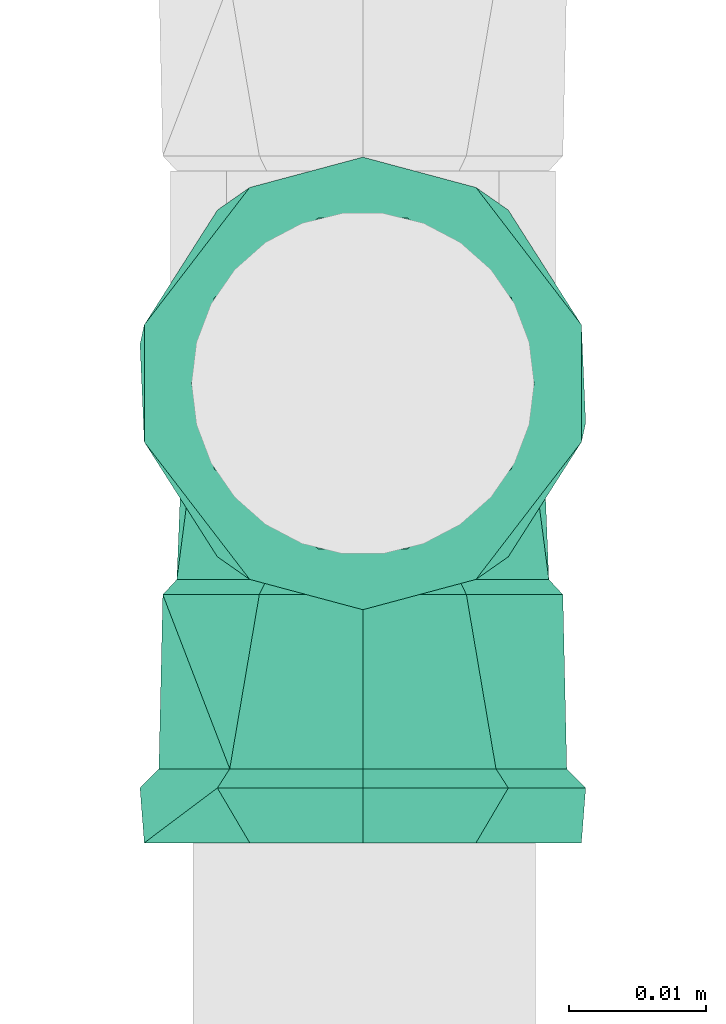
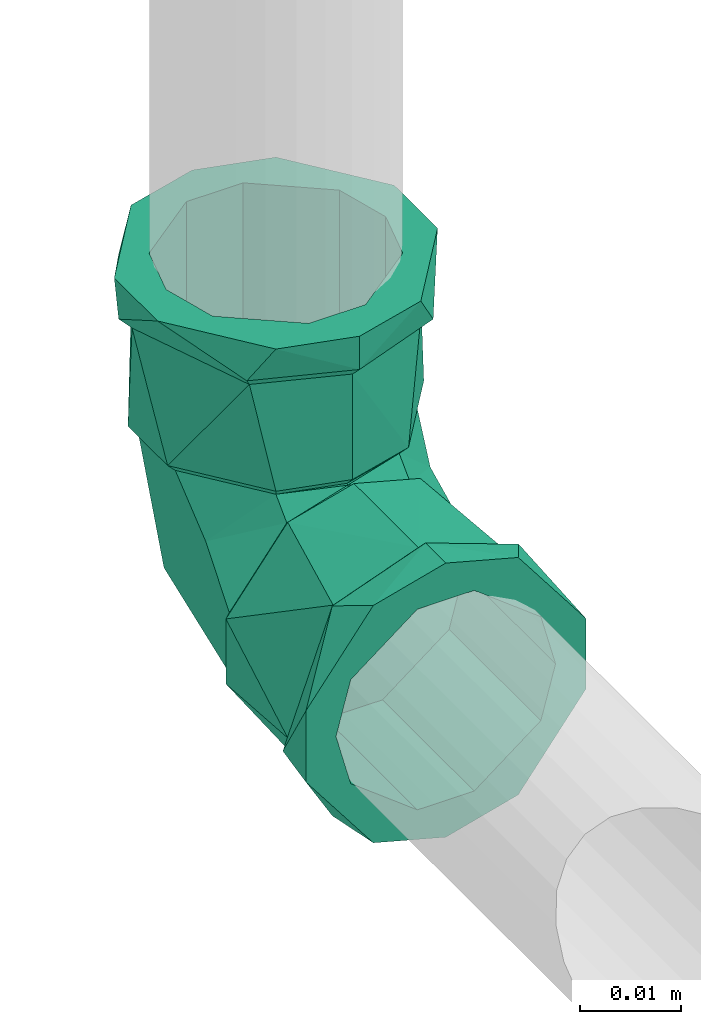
# One storey, part 320 of 589: 1 flow fitting.
"""IFC2X3 building model written with IfcOpenShell, lengths in millimetres."""

from ifc_helpers import new_model, entity, si_unit, converted_unit, derived_unit, direction, frame, origin, place, context, subcontext, project, spatial, faceted_brep, source, transform, mapped, material, type_object, type_shapes, element, save


model = new_model("IFC2X3")

# Units and contexts
model_context = context("Model", 3, precision=0.01, world=origin(), true_north=direction((6.123031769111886e-17, 1.0)))
body_context = subcontext(model_context, "Body", "Model", "MODEL_VIEW")
ifc_project = project(units=[si_unit("LENGTHUNIT", "METRE", prefix="MILLI"), si_unit("AREAUNIT", "SQUARE_METRE"), si_unit("VOLUMEUNIT", "CUBIC_METRE"), converted_unit("PLANEANGLEUNIT", "DEGREE", entity("IfcRatioMeasure", 0.017453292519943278), si_unit("PLANEANGLEUNIT", "RADIAN"), dimensions=[0, 0, 0, 0, 0, 0, 0]), si_unit("MASSUNIT", "GRAM", prefix="KILO"), derived_unit("MASSDENSITYUNIT", [(si_unit("MASSUNIT", "GRAM", prefix="KILO"), 1), (si_unit("LENGTHUNIT", "METRE"), -3)]), derived_unit("IONCONCENTRATIONUNIT", [(si_unit("MASSUNIT", "GRAM", prefix="KILO"), 1), (si_unit("LENGTHUNIT", "METRE"), -3)]), derived_unit("MOMENTOFINERTIAUNIT", [(si_unit("LENGTHUNIT", "METRE"), 4)]), si_unit("TIMEUNIT", "SECOND"), si_unit("FREQUENCYUNIT", "HERTZ"), si_unit("THERMODYNAMICTEMPERATUREUNIT", "DEGREE_CELSIUS"), derived_unit("THERMALTRANSMITTANCEUNIT", [(si_unit("MASSUNIT", "GRAM", prefix="KILO"), 1), (si_unit("THERMODYNAMICTEMPERATUREUNIT", "KELVIN"), -1), (si_unit("TIMEUNIT", "SECOND"), -3)]), derived_unit("THERMALCONDUCTANCEUNIT", [(si_unit("MASSUNIT", "GRAM", prefix="KILO"), 1), (si_unit("THERMODYNAMICTEMPERATUREUNIT", "KELVIN"), -1), (si_unit("TIMEUNIT", "SECOND"), -3), (si_unit("LENGTHUNIT", "METRE"), 1)]), derived_unit("VOLUMETRICFLOWRATEUNIT", [(si_unit("LENGTHUNIT", "METRE"), 3), (si_unit("TIMEUNIT", "SECOND"), -1)]), derived_unit("MASSFLOWRATEUNIT", [(si_unit("MASSUNIT", "GRAM", prefix="KILO"), 1), (si_unit("TIMEUNIT", "SECOND"), -1)]), derived_unit("ROTATIONALFREQUENCYUNIT", [(si_unit("TIMEUNIT", "SECOND"), -1)]), si_unit("ELECTRICCURRENTUNIT", "AMPERE"), si_unit("ELECTRICVOLTAGEUNIT", "VOLT"), si_unit("POWERUNIT", "WATT"), si_unit("FORCEUNIT", "NEWTON", prefix="KILO"), si_unit("ILLUMINANCEUNIT", "LUX"), si_unit("LUMINOUSFLUXUNIT", "LUMEN"), si_unit("LUMINOUSINTENSITYUNIT", "CANDELA"), derived_unit("USERDEFINED", [(si_unit("MASSUNIT", "GRAM", prefix="KILO"), -1), (si_unit("LENGTHUNIT", "METRE"), -2), (si_unit("TIMEUNIT", "SECOND"), 3), (si_unit("LUMINOUSFLUXUNIT", "LUMEN"), 1)]), derived_unit("USERDEFINED", [(si_unit("MASSUNIT", "GRAM", prefix="KILO"), 1), (si_unit("TIMEUNIT", "SECOND"), -3), (si_unit("LENGTHUNIT", "METRE"), 3), (si_unit("ELECTRICCURRENTUNIT", "AMPERE"), -2)]), derived_unit("SOUNDPOWERUNIT", [(si_unit("MASSUNIT", "GRAM", prefix="KILO"), 1), (si_unit("TIMEUNIT", "SECOND"), -3), (si_unit("LENGTHUNIT", "METRE"), 2)]), derived_unit("SOUNDPRESSUREUNIT", [(si_unit("MASSUNIT", "GRAM", prefix="KILO"), 1), (si_unit("LENGTHUNIT", "METRE"), -1), (si_unit("TIMEUNIT", "SECOND"), -2)]), derived_unit("LINEARVELOCITYUNIT", [(si_unit("LENGTHUNIT", "METRE"), 1), (si_unit("TIMEUNIT", "SECOND"), -1)]), si_unit("PRESSUREUNIT", "PASCAL"), derived_unit("USERDEFINED", [(si_unit("MASSUNIT", "GRAM", prefix="KILO"), 1), (si_unit("LENGTHUNIT", "METRE"), -2), (si_unit("TIMEUNIT", "SECOND"), -2)]), derived_unit("LINEARFORCEUNIT", [(si_unit("MASSUNIT", "GRAM", prefix="KILO"), 1), (si_unit("TIMEUNIT", "SECOND"), -2)]), derived_unit("PLANARFORCEUNIT", [(si_unit("MASSUNIT", "GRAM", prefix="KILO"), 1), (si_unit("LENGTHUNIT", "METRE"), -1), (si_unit("TIMEUNIT", "SECOND"), -2)]), derived_unit("SPECIFICHEATCAPACITYUNIT", [(si_unit("THERMODYNAMICTEMPERATUREUNIT", "KELVIN"), -1), (si_unit("LENGTHUNIT", "METRE"), 2), (si_unit("TIMEUNIT", "SECOND"), -2)]), derived_unit("HEATINGVALUEUNIT", [(si_unit("LENGTHUNIT", "METRE"), 2), (si_unit("TIMEUNIT", "SECOND"), -2)]), derived_unit("VAPORPERMEABILITYUNIT", [(si_unit("LENGTHUNIT", "METRE"), -1), (si_unit("TIMEUNIT", "SECOND"), 1)]), derived_unit("DYNAMICVISCOSITYUNIT", [(si_unit("MASSUNIT", "GRAM", prefix="KILO"), 1), (si_unit("TIMEUNIT", "SECOND"), -1), (si_unit("LENGTHUNIT", "METRE"), -1)]), derived_unit("THERMALEXPANSIONCOEFFICIENTUNIT", [(si_unit("THERMODYNAMICTEMPERATUREUNIT", "KELVIN"), -1)]), derived_unit("MODULUSOFELASTICITYUNIT", [(si_unit("MASSUNIT", "GRAM", prefix="KILO"), 1), (si_unit("LENGTHUNIT", "METRE"), -1), (si_unit("TIMEUNIT", "SECOND"), -2)]), derived_unit("ISOTHERMALMOISTURECAPACITYUNIT", [(si_unit("LENGTHUNIT", "METRE"), 3), (si_unit("MASSUNIT", "GRAM", prefix="KILO"), -1)]), derived_unit("MOISTUREDIFFUSIVITYUNIT", [(si_unit("TIMEUNIT", "SECOND"), -1), (si_unit("LENGTHUNIT", "METRE"), 2)])], contexts=[model_context])

# Site, building, storey
site_placement = place(None, origin())
site = spatial("IfcSite", under=ifc_project, at=site_placement, Name="Default", CompositionType="ELEMENT")
building_placement = place(site_placement, origin())
building = spatial("IfcBuilding", under=site, at=building_placement, CompositionType="ELEMENT")
storey_placement = place(building_placement, frame((0.0, 0.0, 100.0)))
storey = spatial("IfcBuildingStorey", under=building, at=storey_placement, Name="TÉRREO", CompositionType="ELEMENT", Elevation=100.0)

# Flow fitting
ifc_material = material(Name="PVC Marrom")
pipe_fitting_type = type_object("IfcPipeFittingType", Name="PVC Marrom Soldável_Joelho 45°_90°_Rodrigo MEP:Joelho", PredefinedType="NOTDEFINED", material=ifc_material)
shared_shape = source(origin(), body_context, "Body", "Brep", [
    faceted_brep([(-3.908167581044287, -15.40000000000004, 14.585479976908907), (-13.076983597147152, -15.40000000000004, 7.549999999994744), (-15.10000000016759, -15.40000000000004, 0.0), (-13.076983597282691, -15.40000000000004, -7.550000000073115), (-3.9081675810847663, -15.40000000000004, -14.585479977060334), (3.9081675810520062, -15.40000000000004, -14.585479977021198), (13.076983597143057, -15.40000000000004, -7.55000000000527), (15.099999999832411, -15.40000000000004, 0.0), (13.076983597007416, -15.40000000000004, 7.549999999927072), (3.908167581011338, -15.40000000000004, 14.585479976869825), (3.6338193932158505, -14.30000000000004, 13.561598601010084), (12.158996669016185, -14.30000000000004, 7.0199999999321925), (14.040000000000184, -14.30000000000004, 0.0), (12.158996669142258, -14.30000000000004, -7.020000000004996), (3.6338193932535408, -14.30000000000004, -13.561598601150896), (-3.6338193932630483, -14.30000000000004, -13.561598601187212), (-12.158996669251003, -14.30000000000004, -7.020000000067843), (-14.039999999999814, -14.30000000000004, 0.0), (-12.158996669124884, -14.30000000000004, 7.0199999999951), (-3.633819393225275, -14.30000000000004, 13.561598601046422)], [[[0, 1, 2, 3, 4, 5, 6, 7, 8, 9]], [[10, 11, 12, 13, 14, 15, 16, 17, 18, 19]], [[13, 12, 6]], [[14, 13, 6, 5]], [[12, 7, 6]], [[5, 4, 15, 14]], [[16, 15, 4, 3]], [[17, 16, 2]], [[16, 3, 2]], [[18, 17, 1]], [[19, 18, 1, 0]], [[17, 2, 1]], [[0, 9, 10, 19]], [[11, 10, 9, 8]], [[12, 11, 7]], [[11, 8, 7]]]),
    faceted_brep([(-15.399999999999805, -3.908167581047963, 14.585479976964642), (-15.399999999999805, 3.908167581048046, 14.585479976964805), (-15.399999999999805, 13.076983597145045, 7.550000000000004), (-15.399999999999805, 15.100000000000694, 0.0), (-15.399999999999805, 13.0769835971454, -7.550000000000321), (-15.399999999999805, 3.9081675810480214, -14.585479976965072), (-15.399999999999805, -3.9081675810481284, -14.58547997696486), (-15.399999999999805, -13.076983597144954, -7.54999999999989), (-15.399999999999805, -15.099999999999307, 0.0), (-15.399999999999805, -13.076983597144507, 7.549999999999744), (-14.299999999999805, 3.633819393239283, 13.56159860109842), (-14.299999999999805, -3.6338193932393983, 13.561598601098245), (-14.299999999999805, -12.158996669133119, 7.019999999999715), (-14.299999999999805, -14.040000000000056, 0.0), (-14.299999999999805, -12.158996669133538, -7.019999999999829), (-14.299999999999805, -3.6338193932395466, -13.56159860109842), (-14.299999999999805, 3.63381939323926, -13.561598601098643), (-14.299999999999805, 12.158996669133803, -7.020000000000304), (-14.299999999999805, 14.039999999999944, 0.0), (-14.299999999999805, 12.15899666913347, 7.020000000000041)], [[[0, 1, 2, 3, 4, 5, 6, 7, 8, 9]], [[10, 11, 12, 13, 14, 15, 16, 17, 18, 19]], [[14, 13, 8, 7]], [[15, 14, 7, 6]], [[6, 5, 16, 15]], [[17, 16, 5, 4]], [[18, 17, 4, 3]], [[19, 18, 3, 2]], [[10, 19, 2, 1]], [[1, 0, 11, 10]], [[12, 11, 0, 9]], [[13, 12, 9, 8]]]),
    faceted_brep([(-33.4999999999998, 0.0, -12.5), (-33.4999999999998, 6.250000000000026, -10.825317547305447), (-33.4999999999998, 4.2705142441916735, -15.937776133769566), (-33.4999999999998, -4.270514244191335, -15.937776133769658), (-33.4999999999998, -6.250000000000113, -10.82531754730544), (-33.4999999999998, 14.289419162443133, -8.25000000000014), (-33.4999999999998, 12.074072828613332, -3.23523806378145), (-33.4999999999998, 16.5, 0.0), (-33.4999999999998, 12.074072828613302, 3.2352380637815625), (-33.4999999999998, 14.289419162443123, 8.249999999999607), (-33.4999999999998, 6.249999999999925, 10.825317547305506), (-33.4999999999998, 4.27051424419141, 15.937776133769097), (-33.4999999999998, 0.0, 12.5), (-33.4999999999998, -4.270514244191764, 15.937776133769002), (-33.4999999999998, -6.249999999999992, 10.825317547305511), (-33.4999999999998, -14.28941916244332, 8.249999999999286), (-33.4999999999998, -12.074072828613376, 3.2352380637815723), (-33.4999999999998, -16.5, 0.0), (-33.4999999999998, -12.074072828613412, -3.235238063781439), (-33.4999999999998, -14.289419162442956, -8.250000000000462), (-29.499999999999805, -16.5, 0.0), (-29.500000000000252, -12.639142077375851, 10.606700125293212), (-29.50000000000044, -4.885841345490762, 13.427814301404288), (-29.5000000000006, 2.8674593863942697, 16.24892847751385), (-29.50000000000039, 12.64180232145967, 10.603529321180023), (-29.499999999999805, 16.499999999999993, 0.0), (-29.49999999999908, 12.641802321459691, -10.603529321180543), (-29.499999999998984, 4.889209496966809, -13.426588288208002), (-29.4999999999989, -2.8633833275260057, -16.249647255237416), (-29.499999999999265, -12.639142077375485, -10.606700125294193), (-28.10000000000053, 11.56916454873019, 9.703835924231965), (-28.099999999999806, 15.099999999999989, 0.0), (-28.10000000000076, 2.624159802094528, 14.870231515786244), (-28.100000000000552, -4.471285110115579, 12.288484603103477), (-28.100000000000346, -11.566730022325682, 9.706737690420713), (-28.09999999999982, -15.099999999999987, 0.0), (-28.099999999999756, -11.566730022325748, -9.706737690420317), (-28.099999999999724, -2.620429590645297, -14.87088930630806), (-28.099999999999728, 4.4743674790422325, -12.287362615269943), (-28.09999999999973, 11.569164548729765, -9.703835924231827), (-15.399999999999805, 3.908167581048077, -14.585479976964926), (-15.399999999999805, 6.250000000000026, -10.825317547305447), (-15.399999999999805, 0.0, -12.5), (-15.399999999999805, 13.076983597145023, -7.549999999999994), (-15.399999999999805, -3.9081675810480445, -14.585479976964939), (-15.399999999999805, 12.074072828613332, -3.23523806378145), (-15.399999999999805, 15.099999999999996, 0.0), (-15.399999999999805, 12.074072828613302, 3.2352380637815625), (-15.399999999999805, 13.076983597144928, 7.550000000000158), (-15.399999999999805, 6.249999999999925, 10.825317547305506), (-15.399999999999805, 3.9081675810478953, 14.585479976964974), (-15.399999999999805, 0.0, 12.5), (-15.399999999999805, -3.9081675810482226, 14.58547997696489), (-15.399999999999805, -6.249999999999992, 10.825317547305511), (-15.399999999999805, -13.076983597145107, 7.549999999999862), (-15.399999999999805, -12.074072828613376, 3.2352380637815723), (-15.399999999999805, -15.100000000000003, 0.0), (-15.399999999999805, -12.074072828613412, -3.235238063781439), (-15.399999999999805, -13.076983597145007, -7.550000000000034), (-15.399999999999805, -6.250000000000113, -10.82531754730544)], [[[0, 1, 2]], [[2, 3, 0]], [[4, 0, 3]], [[5, 2, 1]], [[1, 6, 5]], [[6, 7, 5]], [[8, 7, 6]], [[7, 8, 9]], [[10, 9, 8]], [[9, 10, 11]], [[12, 11, 10]], [[13, 11, 12]], [[12, 14, 13]], [[13, 14, 15]], [[16, 15, 14]], [[15, 16, 17]], [[16, 18, 17]], [[19, 18, 4]], [[17, 18, 19]], [[3, 19, 4]], [[20, 15, 17]], [[20, 21, 15]], [[13, 15, 21]], [[13, 21, 22, 23]], [[9, 11, 24]], [[7, 9, 25]], [[23, 24, 11]], [[25, 9, 24]], [[13, 23, 11]], [[25, 5, 7]], [[25, 26, 5]], [[2, 5, 26]], [[2, 26, 27, 28]], [[19, 3, 29]], [[17, 19, 20]], [[28, 29, 3]], [[20, 19, 29]], [[2, 28, 3]], [[24, 30, 31, 25]], [[30, 24, 23, 32]], [[33, 32, 23, 22, 21, 34]], [[20, 35, 34, 21]], [[29, 36, 35, 20]], [[36, 29, 28, 37]], [[38, 37, 28, 27, 26, 39]], [[25, 31, 39, 26]], [[40, 41, 42]], [[41, 40, 43]], [[42, 44, 40]], [[43, 45, 41]], [[43, 46, 45]], [[45, 46, 47]], [[48, 47, 46]], [[47, 48, 49]], [[50, 49, 48]], [[49, 50, 51]], [[51, 50, 52]], [[52, 53, 51]], [[54, 53, 52]], [[53, 54, 55]], [[56, 55, 54]], [[56, 57, 55]], [[58, 57, 56]], [[59, 57, 58]], [[59, 58, 44]], [[44, 42, 59]], [[54, 34, 35]], [[56, 54, 35]], [[52, 34, 54]], [[52, 32, 33, 34]], [[30, 32, 50]], [[31, 30, 48]], [[50, 48, 30]], [[46, 31, 48]], [[52, 50, 32]], [[43, 39, 31]], [[46, 43, 31]], [[40, 39, 43]], [[40, 37, 38, 39]], [[36, 37, 44]], [[35, 36, 58]], [[44, 58, 36]], [[56, 35, 58]], [[40, 44, 37]], [[49, 51, 12, 10]], [[47, 49, 10, 8]], [[8, 6, 45, 47]], [[41, 45, 6, 1]], [[42, 41, 1, 0]], [[59, 42, 0, 4]], [[57, 59, 4, 18]], [[18, 16, 55, 57]], [[53, 55, 16, 14]], [[51, 53, 14, 12]]]),
    faceted_brep([(-14.299999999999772, 3.6338193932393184, -13.561598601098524), (-14.299999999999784, -3.63381939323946, -13.561598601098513), (-14.299999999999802, -12.158996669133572, -7.019999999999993), (-14.299999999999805, -14.04000000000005, 0.0), (-14.299999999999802, -12.158996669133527, 7.0200000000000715), (-14.299999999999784, -3.633819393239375, 13.561598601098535), (-14.299999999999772, 3.6338193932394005, 13.561598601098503), (-14.299999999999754, 12.158996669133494, 7.019999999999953), (-14.29999999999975, 14.039999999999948, 0.0), (-14.299999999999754, 12.158996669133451, -7.020000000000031), (3.633819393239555, -14.29999999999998, -13.561598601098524), (12.158996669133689, -14.299999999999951, -7.020000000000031), (14.040000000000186, -14.299999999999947, 0.0), (12.158996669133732, -14.299999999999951, 7.019999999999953), (3.6338193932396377, -14.29999999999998, 13.561598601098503), (-3.6338193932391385, -14.300000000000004, 13.561598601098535), (-12.158996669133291, -14.300000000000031, 7.0200000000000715), (-14.039999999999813, -14.300000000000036, 0.0), (-12.158996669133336, -14.300000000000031, -7.019999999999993), (-3.633819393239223, -14.300000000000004, -13.561598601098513), (-0.12999999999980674, 10.243159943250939, 0.0), (-8.296884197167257, -8.296884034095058, 12.78130953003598), (-0.45476175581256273, -0.4547603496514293, 13.009299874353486), (-4.9057767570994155, 9.090331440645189, 8.841582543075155), (3.6031967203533, 3.777073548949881, 0.0), (9.102895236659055, -4.991225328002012, 8.866254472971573), (-14.116152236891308, -14.116152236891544, 0.0), (7.336393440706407, -2.689012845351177, 0.0), (-4.905776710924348, 9.090331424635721, -8.841582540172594), (-0.45476143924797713, -0.45476027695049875, -13.009299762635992), (9.102895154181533, -4.991225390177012, -8.866254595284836), (-8.296884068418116, -8.296883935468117, -12.78130960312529)], [[[0, 1, 2, 3, 4, 5, 6, 7, 8, 9]], [[10, 11, 12, 13, 14, 15, 16, 17, 18, 19]], [[7, 20, 8]], [[5, 21, 22]], [[7, 23, 20]], [[24, 23, 22]], [[14, 13, 25]], [[22, 6, 5]], [[24, 20, 23]], [[4, 3, 26]], [[4, 21, 5]], [[23, 6, 22]], [[14, 22, 15]], [[13, 27, 25]], [[15, 22, 21]], [[25, 22, 14]], [[6, 23, 7]], [[27, 24, 25]], [[16, 26, 17]], [[22, 25, 24]], [[4, 26, 16]], [[21, 16, 15]], [[16, 21, 4]], [[12, 27, 13]], [[28, 29, 0]], [[11, 10, 30]], [[18, 2, 31]], [[1, 29, 31]], [[20, 9, 8]], [[30, 29, 24]], [[0, 9, 28]], [[1, 0, 29]], [[19, 31, 29]], [[1, 31, 2]], [[26, 3, 2]], [[18, 17, 26]], [[30, 10, 29]], [[24, 27, 30]], [[31, 19, 18]], [[10, 19, 29]], [[27, 12, 11]], [[24, 29, 28]], [[24, 28, 20]], [[20, 28, 9]], [[30, 27, 11]], [[26, 2, 18]]]),
    faceted_brep([(-3.908167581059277, -15.40000000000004, -14.585479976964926), (-6.249999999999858, -15.40000000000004, -10.825317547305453), (0.0, -15.40000000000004, -12.5), (-13.076983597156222, -15.40000000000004, -7.549999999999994), (3.9081675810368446, -15.40000000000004, -14.585479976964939), (-12.07407282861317, -15.40000000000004, -3.235238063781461), (-15.100000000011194, -15.40000000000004, 0.0), (-12.074072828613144, -15.40000000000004, 3.2352380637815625), (-13.076983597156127, -15.40000000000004, 7.550000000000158), (-6.249999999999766, -15.40000000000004, 10.825317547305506), (-3.9081675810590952, -15.40000000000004, 14.585479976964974), (0.0, -15.40000000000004, 12.5), (3.9081675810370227, -15.40000000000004, 14.58547997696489), (6.250000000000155, -15.40000000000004, 10.825317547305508), (13.076983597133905, -15.40000000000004, 7.549999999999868), (12.074072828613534, -15.40000000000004, 3.2352380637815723), (15.099999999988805, -15.40000000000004, 0.0), (12.07407282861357, -15.40000000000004, -3.235238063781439), (13.07698359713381, -15.40000000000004, -7.550000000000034), (6.250000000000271, -15.40000000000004, -10.82531754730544), (11.56673002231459, -28.100000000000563, 9.706737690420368), (15.099999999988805, -28.10000000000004, 0.0), (2.6204295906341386, -28.100000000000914, 14.870889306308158), (-11.569164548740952, -28.10000000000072, 9.703835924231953), (-4.474367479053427, -28.100000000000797, 12.287362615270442), (-15.100000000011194, -28.10000000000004, 0.0), (-11.569164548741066, -28.10000000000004, -9.703835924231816), (-2.6241598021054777, -28.10000000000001, -14.870231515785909), (11.566730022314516, -28.10000000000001, -9.706737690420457), (4.471285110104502, -28.10000000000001, -12.288484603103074), (2.8674593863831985, -29.50000000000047, 16.248928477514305), (-4.8858413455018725, -29.500000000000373, 13.427814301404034), (-16.50000000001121, -29.500000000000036, 0.0), (-12.639142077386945, -29.50000000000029, 10.606700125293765), (12.641802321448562, -29.500000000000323, 10.603529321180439), (16.499999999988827, -29.50000000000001, 0.0), (12.64180232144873, -29.500000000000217, -10.603529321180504), (4.889209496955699, -29.50000000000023, -13.426588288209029), (-2.863383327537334, -29.500000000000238, -16.249647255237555), (-12.639142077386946, -29.500000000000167, -10.606700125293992), (0.0, -33.50000000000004, -12.5), (-6.249999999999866, -33.50000000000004, -10.825317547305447), (-4.270514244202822, -33.50000000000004, -15.937776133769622), (4.270514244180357, -33.50000000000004, -15.937776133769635), (6.250000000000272, -33.50000000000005, -10.82531754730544), (-14.289419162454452, -33.50000000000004, -8.249999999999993), (-12.074072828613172, -33.50000000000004, -3.23523806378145), (-16.50000000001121, -33.50000000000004, 0.0), (-12.074072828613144, -33.50000000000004, 3.2352380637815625), (-14.28941916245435, -33.50000000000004, 8.250000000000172), (-6.2499999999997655, -33.50000000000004, 10.825317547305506), (-4.270514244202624, -33.50000000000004, 15.937776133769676), (0.0, -33.50000000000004, 12.5), (4.270514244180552, -33.50000000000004, 15.937776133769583), (6.250000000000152, -33.50000000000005, 10.825317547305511), (14.289419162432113, -33.50000000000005, 8.249999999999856), (12.074072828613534, -33.50000000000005, 3.2352380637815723), (16.49999999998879, -33.50000000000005, 0.0), (12.07407282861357, -33.50000000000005, -3.235238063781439), (14.289419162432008, -33.50000000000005, -8.250000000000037)], [[[0, 1, 2]], [[1, 0, 3]], [[2, 4, 0]], [[3, 5, 1]], [[3, 6, 5]], [[5, 6, 7]], [[8, 7, 6]], [[7, 8, 9]], [[10, 9, 8]], [[9, 10, 11]], [[11, 10, 12]], [[12, 13, 11]], [[14, 13, 12]], [[13, 14, 15]], [[16, 15, 14]], [[16, 17, 15]], [[18, 17, 16]], [[19, 17, 18]], [[19, 18, 4]], [[4, 2, 19]], [[14, 20, 21]], [[16, 14, 21]], [[12, 20, 14]], [[12, 22, 20]], [[10, 23, 24, 22]], [[25, 23, 8]], [[10, 8, 23]], [[6, 25, 8]], [[12, 10, 22]], [[3, 26, 25]], [[6, 3, 25]], [[0, 26, 3]], [[0, 27, 26]], [[4, 28, 29, 27]], [[21, 28, 18]], [[4, 18, 28]], [[16, 21, 18]], [[0, 4, 27]], [[30, 22, 31]], [[32, 23, 25]], [[33, 23, 32]], [[31, 24, 33]], [[34, 21, 20]], [[24, 23, 33]], [[20, 30, 34]], [[21, 34, 35]], [[24, 31, 22]], [[22, 30, 20]], [[36, 28, 21]], [[21, 35, 36]], [[36, 37, 28]], [[37, 29, 28]], [[37, 38, 29]], [[32, 25, 26]], [[27, 39, 26]], [[32, 26, 39]], [[27, 29, 38]], [[38, 39, 27]], [[40, 41, 42]], [[42, 43, 40]], [[44, 40, 43]], [[45, 42, 41]], [[41, 46, 45]], [[46, 47, 45]], [[48, 47, 46]], [[47, 48, 49]], [[50, 49, 48]], [[49, 50, 51]], [[52, 51, 50]], [[53, 51, 52]], [[52, 54, 53]], [[53, 54, 55]], [[56, 55, 54]], [[55, 56, 57]], [[56, 58, 57]], [[59, 58, 44]], [[57, 58, 59]], [[43, 59, 44]], [[35, 55, 57]], [[35, 34, 55]], [[53, 55, 34]], [[30, 53, 34]], [[49, 51, 33]], [[47, 49, 32]], [[51, 30, 31, 33]], [[32, 49, 33]], [[53, 30, 51]], [[32, 45, 47]], [[32, 39, 45]], [[42, 45, 39]], [[38, 42, 39]], [[59, 43, 36]], [[57, 59, 35]], [[43, 38, 37, 36]], [[35, 59, 36]], [[42, 38, 43]], [[9, 11, 52, 50]], [[7, 9, 50, 48]], [[48, 46, 5, 7]], [[1, 5, 46, 41]], [[2, 1, 41, 40]], [[19, 2, 40, 44]], [[17, 19, 44, 58]], [[58, 56, 15, 17]], [[13, 15, 56, 54]], [[11, 13, 54, 52]]]),
])
type_shapes(pipe_fitting_type, [shared_shape])
flow_fitting_placement = place(storey_placement, frame((1531.7423921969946, -8568.028664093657, 599.9999707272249), z_axis=(-1.0, 0.0, 0.0), x_axis=(0.0, 1.0, 0.0)))
element("IfcFlowFitting", 1, at=flow_fitting_placement, inside=storey, type_object=pipe_fitting_type, material=ifc_material, Name="PVC Marrom Soldável_Joelho 45°_90°_Rodrigo MEP:Joelho", ObjectType="PVC Marrom Soldável_Joelho 45°_90°_Rodrigo MEP:Joelho", context=body_context, shape_type="MappedRepresentation", body=[
    mapped(shared_shape, transform((0.0, 0.0, 0.0), scale=1.0)),
])

save(model, "model.ifc")
